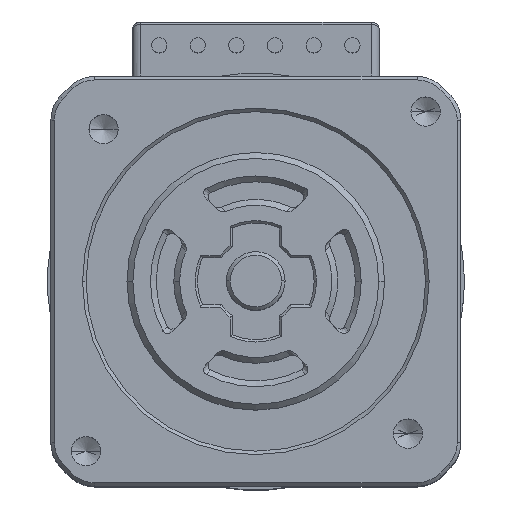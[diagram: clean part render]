
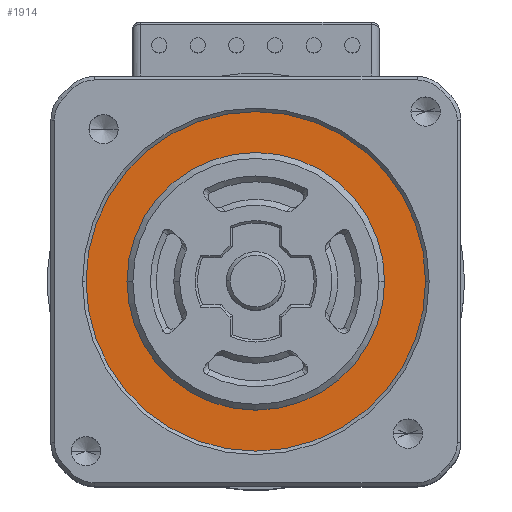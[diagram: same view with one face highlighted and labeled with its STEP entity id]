
A CAD part, top view. The second image highlights one B-rep face of the part: STEP entity #1914.
In plain terms, the highlighted planar face has unit normal (0, 0, 1).
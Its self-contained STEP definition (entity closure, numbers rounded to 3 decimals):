
#925 = VERTEX_POINT ( 'NONE', #8082 ) ;
#926 = VERTEX_POINT ( 'NONE', #8083 ) ;
#929 = VERTEX_POINT ( 'NONE', #8086 ) ;
#930 = VERTEX_POINT ( 'NONE', #8087 ) ;
#1449 = ORIENTED_EDGE ( 'NONE', *, *, #7430, .T. ) ;
#1450 = ORIENTED_EDGE ( 'NONE', *, *, #7429, .F. ) ;
#1452 = ORIENTED_EDGE ( 'NONE', *, *, #9508, .F. ) ;
#1453 = ORIENTED_EDGE ( 'NONE', *, *, #7077, .T. ) ;
#1712 = FACE_BOUND ( 'NONE', #8374, .T. ) ;
#1713 = FACE_OUTER_BOUND ( 'NONE', #8375, .T. ) ;
#1914 = ADVANCED_FACE ( 'NONE', ( #1712, #1713 ), #2386, .T. ) ;
#2386 = PLANE ( 'NONE',  #6848 ) ;
#2387 = CARTESIAN_POINT ( 'NONE',  ( 0., 0., 7.9 ) ) ;
#2388 = DIRECTION ( 'NONE',  ( 0., 0., 1. ) ) ;
#2389 = DIRECTION ( 'NONE',  ( 1., 0., 0. ) ) ;
#3060 = CARTESIAN_POINT ( 'NONE',  ( 0., 0., 7.9 ) ) ;
#3061 = DIRECTION ( 'NONE',  ( 0., 0., 1. ) ) ;
#3062 = DIRECTION ( 'NONE',  ( 1., 0., 0. ) ) ;
#4898 = CARTESIAN_POINT ( 'NONE',  ( 0., 0., 7.9 ) ) ;
#4899 = DIRECTION ( 'NONE',  ( 0., 0., 1. ) ) ;
#4900 = DIRECTION ( 'NONE',  ( 1., 0., 0. ) ) ;
#4901 = CARTESIAN_POINT ( 'NONE',  ( 0., 0., 7.9 ) ) ;
#4902 = DIRECTION ( 'NONE',  ( 0., 0., 1. ) ) ;
#4903 = DIRECTION ( 'NONE',  ( 1., 0., 0. ) ) ;
#5936 = CARTESIAN_POINT ( 'NONE',  ( 0., 0., 7.9 ) ) ;
#5937 = DIRECTION ( 'NONE',  ( 0., 0., 1. ) ) ;
#5938 = DIRECTION ( 'NONE',  ( 1., 0., 0. ) ) ;
#6848 = AXIS2_PLACEMENT_3D ( 'NONE', #2387, #2388, #2389 ) ;
#7077 = EDGE_CURVE ( 'NONE', #925, #926, #9374, .T. ) ;
#7429 = EDGE_CURVE ( 'NONE', #930, #929, #7540, .T. ) ;
#7430 = EDGE_CURVE ( 'NONE', #926, #925, #7545, .T. ) ;
#7540 = CIRCLE ( 'NONE', #7544, 11. ) ;
#7544 = AXIS2_PLACEMENT_3D ( 'NONE', #4898, #4899, #4900 ) ;
#7545 = CIRCLE ( 'NONE', #7546, 14.5 ) ;
#7546 = AXIS2_PLACEMENT_3D ( 'NONE', #4901, #4902, #4903 ) ;
#8082 = CARTESIAN_POINT ( 'NONE',  ( -14.5, 0., 7.9 ) ) ;
#8083 = CARTESIAN_POINT ( 'NONE',  ( 14.5, 0., 7.9 ) ) ;
#8086 = CARTESIAN_POINT ( 'NONE',  ( 11., 0., 7.9 ) ) ;
#8087 = CARTESIAN_POINT ( 'NONE',  ( -11., 0., 7.9 ) ) ;
#8374 = EDGE_LOOP ( 'NONE', ( #1450, #1452 ) ) ;
#8375 = EDGE_LOOP ( 'NONE', ( #1449, #1453 ) ) ;
#9374 = CIRCLE ( 'NONE', #9378, 14.5 ) ;
#9378 = AXIS2_PLACEMENT_3D ( 'NONE', #3060, #3061, #3062 ) ;
#9508 = EDGE_CURVE ( 'NONE', #929, #930, #10943, .T. ) ;
#10943 = CIRCLE ( 'NONE', #10949, 11. ) ;
#10949 = AXIS2_PLACEMENT_3D ( 'NONE', #5936, #5937, #5938 ) ;
